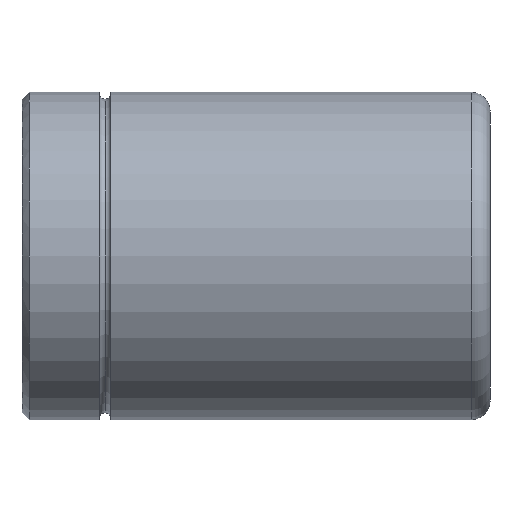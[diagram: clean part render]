
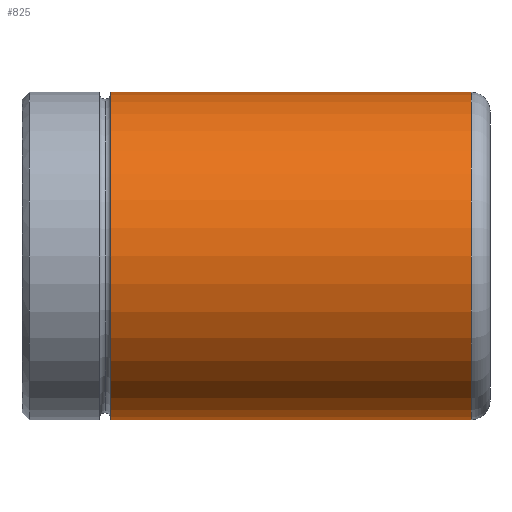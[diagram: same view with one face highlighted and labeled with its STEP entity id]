
A CAD part, front view. The second image highlights one B-rep face of the part: STEP entity #825.
In plain terms, the highlighted cylindrical face has radius 35 mm (diameter 70 mm), a partial arc.
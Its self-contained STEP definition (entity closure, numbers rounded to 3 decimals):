
#641=CARTESIAN_POINT('Vertex',(18.975,0.,35.)) ;
#648=CARTESIAN_POINT('Vertex',(18.975,0.,-35.)) ;
#674=CARTESIAN_POINT('Axis2P3D Location',(18.975,0.,0.)) ;
#678=CARTESIAN_POINT('Vertex',(18.975,-35.,0.)) ;
#681=CARTESIAN_POINT('Axis2P3D Location',(18.975,0.,0.)) ;
#765=CARTESIAN_POINT('Line Origine',(100.,0.,35.)) ;
#769=CARTESIAN_POINT('Vertex',(96.,0.,35.)) ;
#783=CARTESIAN_POINT('Vertex',(96.,0.,-35.)) ;
#786=CARTESIAN_POINT('Line Origine',(100.,0.,-35.)) ;
#800=CARTESIAN_POINT('Axis2P3D Location',(100.,0.,0.)) ;
#805=CARTESIAN_POINT('Axis2P3D Location',(96.,0.,0.)) ;
#809=CARTESIAN_POINT('Vertex',(96.,-35.,0.)) ;
#812=CARTESIAN_POINT('Axis2P3D Location',(96.,0.,0.)) ;
#675=DIRECTION('Axis2P3D Direction',(1.,0.,-0.)) ;
#682=DIRECTION('Axis2P3D Direction',(1.,0.,-0.)) ;
#766=DIRECTION('Vector Direction',(-1.,0.,0.)) ;
#787=DIRECTION('Vector Direction',(-1.,0.,0.)) ;
#801=DIRECTION('Axis2P3D Direction',(-1.,-0.,-0.)) ;
#802=DIRECTION('Axis2P3D XDirection',(0.,0.,-1.)) ;
#806=DIRECTION('Axis2P3D Direction',(-1.,-0.,-0.)) ;
#813=DIRECTION('Axis2P3D Direction',(-1.,-0.,-0.)) ;
#676=AXIS2_PLACEMENT_3D('Circle Axis2P3D',#674,#675,$) ;
#683=AXIS2_PLACEMENT_3D('Circle Axis2P3D',#681,#682,$) ;
#803=AXIS2_PLACEMENT_3D('Cylinder Axis2P3D',#800,#801,#802) ;
#807=AXIS2_PLACEMENT_3D('Circle Axis2P3D',#805,#806,$) ;
#814=AXIS2_PLACEMENT_3D('Circle Axis2P3D',#812,#813,$) ;
#818=ORIENTED_EDGE('',*,*,#790,.T.) ;
#819=ORIENTED_EDGE('',*,*,#811,.F.) ;
#820=ORIENTED_EDGE('',*,*,#816,.F.) ;
#821=ORIENTED_EDGE('',*,*,#771,.T.) ;
#822=ORIENTED_EDGE('',*,*,#685,.T.) ;
#823=ORIENTED_EDGE('',*,*,#680,.T.) ;
#767=VECTOR('Line Direction',#766,1.) ;
#788=VECTOR('Line Direction',#787,1.) ;
#825=ADVANCED_FACE('348-50 x 100',(#824),#804,.T.) ;
#677=CIRCLE('generated circle',#676,35.) ;
#684=CIRCLE('generated circle',#683,35.) ;
#808=CIRCLE('generated circle',#807,35.) ;
#815=CIRCLE('generated circle',#814,35.) ;
#804=CYLINDRICAL_SURFACE('generated cylinder',#803,35.) ;
#680=EDGE_CURVE('',#679,#649,#677,.T.) ;
#685=EDGE_CURVE('',#642,#679,#684,.T.) ;
#771=EDGE_CURVE('',#770,#642,#768,.T.) ;
#790=EDGE_CURVE('',#649,#784,#789,.F.) ;
#811=EDGE_CURVE('',#810,#784,#808,.F.) ;
#816=EDGE_CURVE('',#770,#810,#815,.F.) ;
#817=EDGE_LOOP('',(#818,#819,#820,#821,#822,#823)) ;
#824=FACE_OUTER_BOUND('',#817,.T.) ;
#768=LINE('Line',#765,#767) ;
#789=LINE('Line',#786,#788) ;
#642=VERTEX_POINT('',#641) ;
#649=VERTEX_POINT('',#648) ;
#679=VERTEX_POINT('',#678) ;
#770=VERTEX_POINT('',#769) ;
#784=VERTEX_POINT('',#783) ;
#810=VERTEX_POINT('',#809) ;
